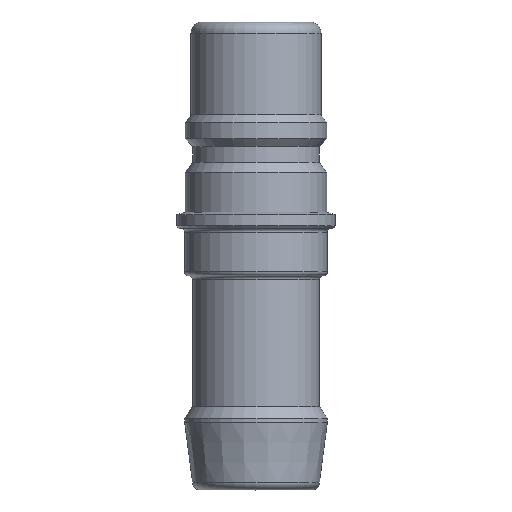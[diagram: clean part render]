
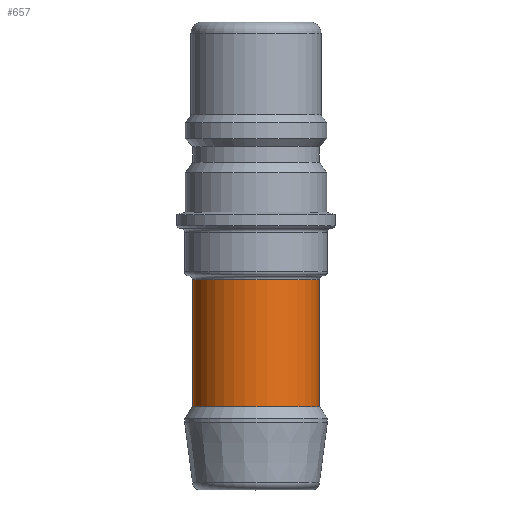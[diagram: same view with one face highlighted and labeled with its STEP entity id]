
A CAD part, top view. The second image highlights one B-rep face of the part: STEP entity #657.
In plain terms, the highlighted cylindrical face has radius 8 mm (diameter 16 mm), a partial arc.
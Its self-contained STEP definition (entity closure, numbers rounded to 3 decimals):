
#19 = LINE ( 'NONE', #82, #1026 ) ;
#58 = VERTEX_POINT ( 'NONE', #533 ) ;
#82 = CARTESIAN_POINT ( 'NONE',  ( 249.121, 329.372, 0. ) ) ;
#121 = EDGE_LOOP ( 'NONE', ( #774, #830, #687, #1012 ) ) ;
#137 = EDGE_CURVE ( 'NONE', #643, #1244, #176, .T. ) ;
#142 = DIRECTION ( 'NONE',  ( 0., 1., 0. ) ) ;
#176 = CIRCLE ( 'NONE', #1174, 8. ) ;
#178 = DIRECTION ( 'NONE',  ( 0., 1., 0. ) ) ;
#187 = DIRECTION ( 'NONE',  ( 0., 1., 0. ) ) ;
#317 = CIRCLE ( 'NONE', #1215, 8. ) ;
#430 = DIRECTION ( 'NONE',  ( 0., 1., 0. ) ) ;
#451 = CYLINDRICAL_SURFACE ( 'NONE', #922, 8. ) ;
#528 = CARTESIAN_POINT ( 'NONE',  ( 233.121, 296.892, 0. ) ) ;
#533 = CARTESIAN_POINT ( 'NONE',  ( 249.121, 296.892, 0. ) ) ;
#643 = VERTEX_POINT ( 'NONE', #1156 ) ;
#657 = ADVANCED_FACE ( 'NONE', ( #972 ), #451, .T. ) ;
#673 = EDGE_CURVE ( 'NONE', #643, #875, #856, .T. ) ;
#687 = ORIENTED_EDGE ( 'NONE', *, *, #1025, .F. ) ;
#745 = CARTESIAN_POINT ( 'NONE',  ( 241.121, 296.892, 0. ) ) ;
#774 = ORIENTED_EDGE ( 'NONE', *, *, #137, .T. ) ;
#814 = DIRECTION ( 'NONE',  ( -1., 0., 0. ) ) ;
#830 = ORIENTED_EDGE ( 'NONE', *, *, #1084, .T. ) ;
#847 = DIRECTION ( 'NONE',  ( 0., 1., 0. ) ) ;
#856 = LINE ( 'NONE', #1088, #1141 ) ;
#858 = DIRECTION ( 'NONE',  ( -1., 0., 0. ) ) ;
#875 = VERTEX_POINT ( 'NONE', #528 ) ;
#898 = CARTESIAN_POINT ( 'NONE',  ( 241.121, 329.372, 0. ) ) ;
#922 = AXIS2_PLACEMENT_3D ( 'NONE', #898, #430, #814 ) ;
#956 = DIRECTION ( 'NONE',  ( -1., 0., 0. ) ) ;
#970 = CARTESIAN_POINT ( 'NONE',  ( 249.121, 280.872, 0. ) ) ;
#972 = FACE_OUTER_BOUND ( 'NONE', #121, .T. ) ;
#1012 = ORIENTED_EDGE ( 'NONE', *, *, #673, .F. ) ;
#1025 = EDGE_CURVE ( 'NONE', #875, #58, #317, .T. ) ;
#1026 = VECTOR ( 'NONE', #847, 1000. ) ;
#1084 = EDGE_CURVE ( 'NONE', #1244, #58, #19, .T. ) ;
#1088 = CARTESIAN_POINT ( 'NONE',  ( 233.121, 329.372, 0. ) ) ;
#1141 = VECTOR ( 'NONE', #142, 1000. ) ;
#1156 = CARTESIAN_POINT ( 'NONE',  ( 233.121, 280.872, 0. ) ) ;
#1174 = AXIS2_PLACEMENT_3D ( 'NONE', #1219, #187, #956 ) ;
#1215 = AXIS2_PLACEMENT_3D ( 'NONE', #745, #178, #858 ) ;
#1219 = CARTESIAN_POINT ( 'NONE',  ( 241.121, 280.872, 0. ) ) ;
#1244 = VERTEX_POINT ( 'NONE', #970 ) ;
